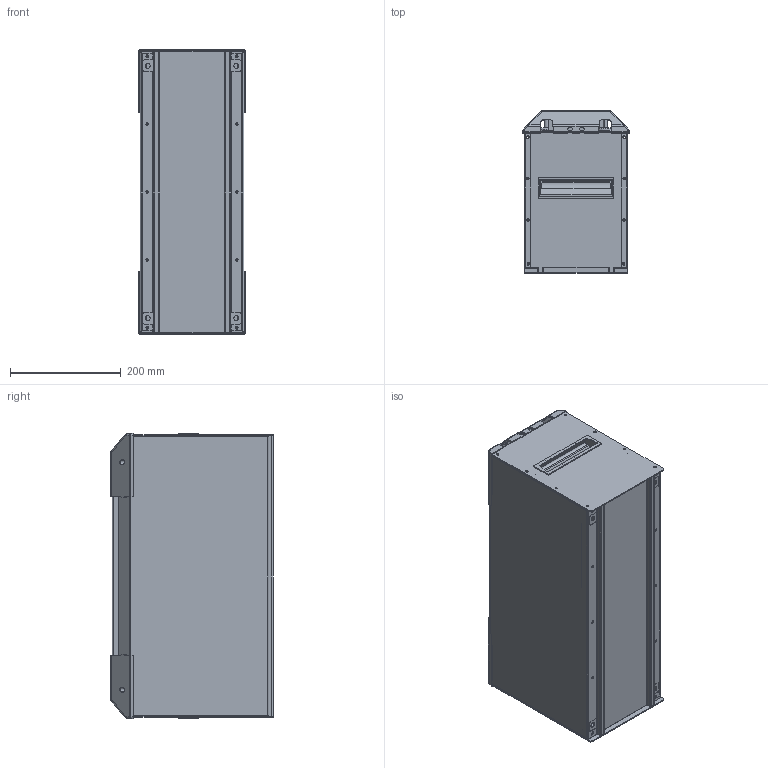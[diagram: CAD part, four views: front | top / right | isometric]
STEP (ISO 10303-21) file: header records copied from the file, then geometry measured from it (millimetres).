
FILE_DESCRIPTION (( 'STEP AP214' ), '1' );
FILE_NAME ('MG3000255B_24V_230Ah_LFP_Total_Assembly.STEP', '2022-08-16T05:36:24', ( '' ), ( '' ), 'SwSTEP 2.0', 'SolidWorks 2018', '' );
FILE_SCHEMA (( 'AUTOMOTIVE_DESIGN' ));
Length unit declared in the file: millimetre
Products named in the file (45): MG4000467A_24V_230Ah_Sheetmetal_Bottom; MG4000280C_Battery_Pole_Isolation_Spacer_Black; MG4000110C_24V_280Ah_Sheetmetal_Positive; MG4000008C_Battery_Terminal_Negative; MG3000210E_IsolateBoltRetainer_M8RingInserted; hex nut style 1_am; MG4000111C_24V_280Ah_Sheetmetal_Negative; MG3000020B_MG16001_High_Energy_Slave_Controller_CANbus_RJ45_V0_4; MG500000xA_Battery_Terminal_CF_Fuse_150A; M5_SelfClinchingNut; hex nut style 1_am_B18.2.4.1M - Hex nut, Style 1,  M5 x 0.8 --D-N; MG4000002A_Battery_Pole_Lid_Big; MG4000280C_Battery_Pole_Isolation_Spacer_Red; MG3000255B_24V_230Ah_LFP_Total_Assembly; lock washer spring extra duty_ai_Extra Duty LW 0.19; formed hex screw_am; MG5000576A_Washer_M8_DIN_125-1-A_A2_1.4mm_thickness; flat washer narrow_am; MG5000001A_Handle_Flush_Snapin_PR; MG4000280C_Battery_Pole_Isolation_Spacer; pan cross head_am_B18.6.7M - M5 x 0.8 x 20 Type I Cross Recessed PHMS --20N; pan cross head_am; flat washer narrow_am_B18.22M - Plain washer, 5 mm, narrow; MG3000153A_24V_280Ah_LFP_cover_assembly_positive; MG4000468A_24V_230Ah_Sheetmetal_Top; MG3000154A_24V_280Ah_LFP_cover_assembly_negative_RJ45; MG500000xA_Battery_Terminal_CF_Fuse; MG4000009B_Battery_Terminal_Positive; lock washer spring extra duty_ai; formed hex screw_am_B18.2.3.2M - Formed hex screw, M8 x 1.25 x 50 --22WN
Assembly tree (25 placements, depth 3):
  MG4000467A_24V_230Ah_Sheetmetal_Bottom
  hex nut style 1_am
  MG4000111C_24V_280Ah_Sheetmetal_Negative
  MG3000020B_MG16001_High_Energy_Slave_Controller_CANbus_RJ45_V0_4
  MG4000002A_Battery_Pole_Lid_Big
Bounding box: 192.86 x 293.34 x 516.29 mm (x, y, z)
Volume: 995551.2 mm3; surface area: 1497881.5 mm2
Topology: 21 solids, 162 shells, 4242 faces, 13073 edges, 8838 vertices
Faces by surface type: plane 2248, cylinder 1176, bspline 301, cone 262, torus 157, sphere 98
Entity records: 156763 total; most frequent: CARTESIAN_POINT 36317, ORIENTED_EDGE 20719, DIRECTION 20659, EDGE_CURVE 11788, VERTEX_POINT 8070, VECTOR 7443, LINE 7443, AXIS2_PLACEMENT_3D 6608
